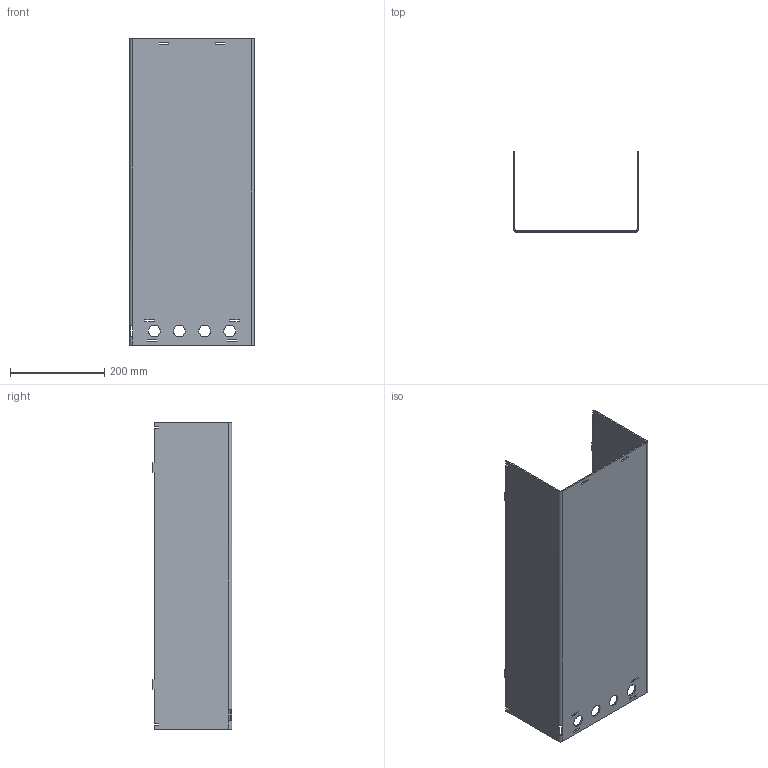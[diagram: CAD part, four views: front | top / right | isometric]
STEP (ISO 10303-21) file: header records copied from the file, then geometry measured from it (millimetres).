
FILE_DESCRIPTION((''),'2;1');
FILE_NAME('288091','2022-12-13T13:35:49',('vmorco'),(''),'CREO PARAMETRIC BY PTC INC, 2020454','CREO PARAMETRIC BY PTC INC, 2020454','');
FILE_SCHEMA(('AUTOMOTIVE_DESIGN { 1 0 10303 214 1 1 1 1 }'));
Length unit declared in the file: millimetre
Products named in the file (1): 288091
Bounding box: 265 x 169 x 650 mm (x, y, z)
Volume: 1133514 mm3; surface area: 765399.8 mm2
Topology: 1 solids, 1 shells, 108 faces, 320 edges, 212 vertices
Faces by surface type: plane 70, cylinder 38
Entity records: 3735 total; most frequent: CARTESIAN_POINT 662, ORIENTED_EDGE 640, DIRECTION 608, EDGE_CURVE 320, VECTOR 240, LINE 240, VERTEX_POINT 212, AXIS2_PLACEMENT_3D 184
